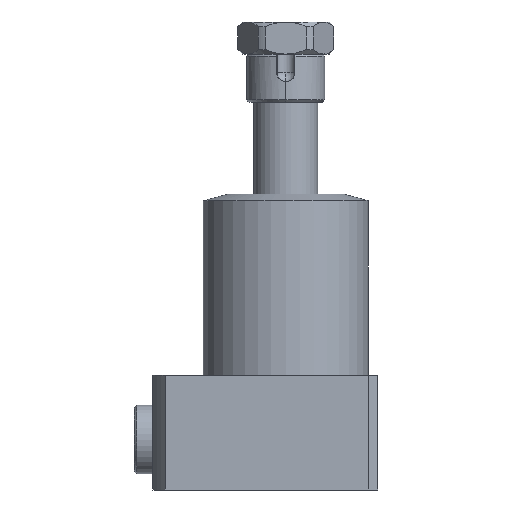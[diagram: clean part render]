
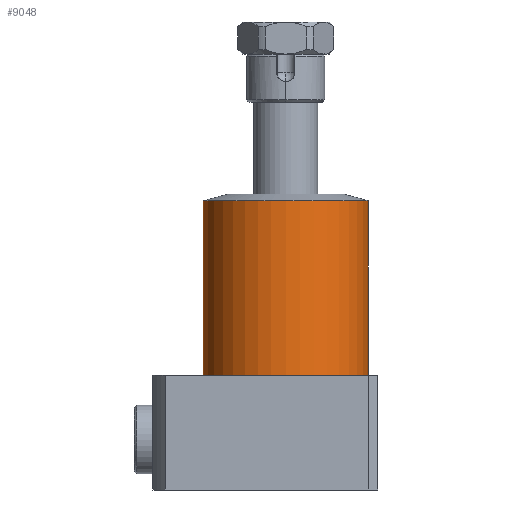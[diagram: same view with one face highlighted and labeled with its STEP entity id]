
A CAD part, front view. The second image highlights one B-rep face of the part: STEP entity #9048.
In plain terms, the highlighted cylindrical face has radius 18 mm (diameter 36 mm), a partial arc.
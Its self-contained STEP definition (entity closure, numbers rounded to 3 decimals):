
#739 = CARTESIAN_POINT ( 'NONE',  ( 18., 0., 64.5 ) ) ;
#2487 = CARTESIAN_POINT ( 'NONE',  ( 0., 0., 25. ) ) ;
#3312 = EDGE_CURVE ( 'NONE', #11494, #4486, #14060, .T. ) ;
#3477 = ORIENTED_EDGE ( 'NONE', *, *, #12761, .F. ) ;
#3910 = DIRECTION ( 'NONE',  ( -1., 0., 0. ) ) ;
#4486 = VERTEX_POINT ( 'NONE', #15013 ) ;
#5106 = ORIENTED_EDGE ( 'NONE', *, *, #9494, .F. ) ;
#5178 = CIRCLE ( 'NONE', #15158, 18. ) ;
#5273 = CARTESIAN_POINT ( 'NONE',  ( -18., 0., 64.5 ) ) ;
#5925 = ORIENTED_EDGE ( 'NONE', *, *, #3312, .T. ) ;
#6709 = CARTESIAN_POINT ( 'NONE',  ( 18., 0., 25. ) ) ;
#6811 = VERTEX_POINT ( 'NONE', #13988 ) ;
#7097 = VERTEX_POINT ( 'NONE', #6709 ) ;
#7563 = AXIS2_PLACEMENT_3D ( 'NONE', #12015, #14824, #7781 ) ;
#7634 = FACE_OUTER_BOUND ( 'NONE', #16962, .T. ) ;
#7781 = DIRECTION ( 'NONE',  ( -1., 0., 0. ) ) ;
#7925 = CARTESIAN_POINT ( 'NONE',  ( 0., 0., 63.026 ) ) ;
#8483 = AXIS2_PLACEMENT_3D ( 'NONE', #7925, #17736, #9345 ) ;
#9048 = ADVANCED_FACE ( 'NONE', ( #7634 ), #14651, .T. ) ;
#9106 = DIRECTION ( 'NONE',  ( 0., 0., -1. ) ) ;
#9329 = CARTESIAN_POINT ( 'NONE',  ( -18., 0., 63.026 ) ) ;
#9345 = DIRECTION ( 'NONE',  ( -1., 0., 0. ) ) ;
#9494 = EDGE_CURVE ( 'NONE', #6811, #7097, #14858, .T. ) ;
#10359 = VECTOR ( 'NONE', #17877, 1000. ) ;
#11161 = VECTOR ( 'NONE', #9106, 1000. ) ;
#11494 = VERTEX_POINT ( 'NONE', #9329 ) ;
#12015 = CARTESIAN_POINT ( 'NONE',  ( 0., 0., 64.5 ) ) ;
#12276 = DIRECTION ( 'NONE',  ( 0., 0., -1. ) ) ;
#12761 = EDGE_CURVE ( 'NONE', #7097, #4486, #5178, .T. ) ;
#13977 = EDGE_CURVE ( 'NONE', #11494, #6811, #14124, .T. ) ;
#13988 = CARTESIAN_POINT ( 'NONE',  ( 18., 0., 63.026 ) ) ;
#14060 = LINE ( 'NONE', #5273, #10359 ) ;
#14124 = CIRCLE ( 'NONE', #8483, 18. ) ;
#14570 = ORIENTED_EDGE ( 'NONE', *, *, #13977, .F. ) ;
#14651 = CYLINDRICAL_SURFACE ( 'NONE', #7563, 18. ) ;
#14824 = DIRECTION ( 'NONE',  ( 0., 0., -1. ) ) ;
#14858 = LINE ( 'NONE', #739, #11161 ) ;
#15013 = CARTESIAN_POINT ( 'NONE',  ( -18., 0., 25. ) ) ;
#15158 = AXIS2_PLACEMENT_3D ( 'NONE', #2487, #12276, #3910 ) ;
#16962 = EDGE_LOOP ( 'NONE', ( #5106, #14570, #5925, #3477 ) ) ;
#17736 = DIRECTION ( 'NONE',  ( 0., 0., 1. ) ) ;
#17877 = DIRECTION ( 'NONE',  ( 0., 0., -1. ) ) ;
